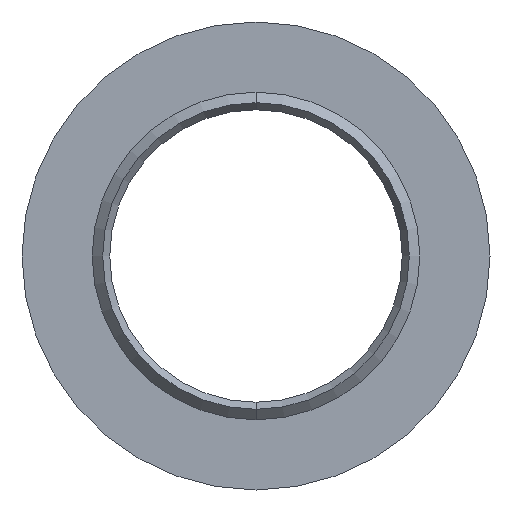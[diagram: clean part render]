
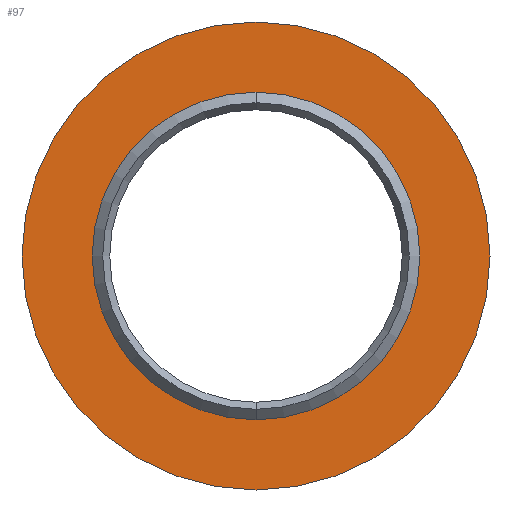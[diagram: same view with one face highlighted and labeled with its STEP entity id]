
A CAD part, front view. The second image highlights one B-rep face of the part: STEP entity #97.
In plain terms, the highlighted planar face has unit normal (0, -1, 0).
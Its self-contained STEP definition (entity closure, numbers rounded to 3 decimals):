
#5 = DIRECTION ( 'NONE',  ( 0., 0., 1. ) ) ;
#39 = DIRECTION ( 'NONE',  ( 0., 0., 1. ) ) ;
#41 = DIRECTION ( 'NONE',  ( 0., 0., 1. ) ) ;
#42 = VERTEX_POINT ( 'NONE', #106 ) ;
#56 = AXIS2_PLACEMENT_3D ( 'NONE', #147, #449, #39 ) ;
#58 = EDGE_CURVE ( 'NONE', #170, #400, #249, .T. ) ;
#75 = EDGE_LOOP ( 'NONE', ( #171, #355 ) ) ;
#97 = ADVANCED_FACE ( 'NONE', ( #125, #344 ), #223, .F. ) ;
#99 = CARTESIAN_POINT ( 'NONE',  ( 0., -3., -8. ) ) ;
#103 = DIRECTION ( 'NONE',  ( 0., 0., -1. ) ) ;
#106 = CARTESIAN_POINT ( 'NONE',  ( 0., -3., 5.6 ) ) ;
#123 = DIRECTION ( 'NONE',  ( 0., -1., 0. ) ) ;
#124 = ORIENTED_EDGE ( 'NONE', *, *, #58, .T. ) ;
#125 = FACE_BOUND ( 'NONE', #75, .T. ) ;
#142 = CIRCLE ( 'NONE', #287, 8. ) ;
#147 = CARTESIAN_POINT ( 'NONE',  ( -5.1, -3., 0. ) ) ;
#159 = CARTESIAN_POINT ( 'NONE',  ( 0., -3., 8. ) ) ;
#165 = AXIS2_PLACEMENT_3D ( 'NONE', #495, #272, #41 ) ;
#168 = CARTESIAN_POINT ( 'NONE',  ( 0., -3., -5.6 ) ) ;
#169 = EDGE_CURVE ( 'NONE', #42, #256, #308, .T. ) ;
#170 = VERTEX_POINT ( 'NONE', #159 ) ;
#171 = ORIENTED_EDGE ( 'NONE', *, *, #169, .T. ) ;
#223 = PLANE ( 'NONE',  #56 ) ;
#239 = DIRECTION ( 'NONE',  ( 0., 1., 0. ) ) ;
#242 = EDGE_CURVE ( 'NONE', #400, #170, #142, .T. ) ;
#244 = CIRCLE ( 'NONE', #343, 5.6 ) ;
#247 = ORIENTED_EDGE ( 'NONE', *, *, #242, .T. ) ;
#248 = EDGE_CURVE ( 'NONE', #256, #42, #244, .T. ) ;
#249 = CIRCLE ( 'NONE', #439, 8. ) ;
#256 = VERTEX_POINT ( 'NONE', #168 ) ;
#272 = DIRECTION ( 'NONE',  ( 0., 1., 0. ) ) ;
#287 = AXIS2_PLACEMENT_3D ( 'NONE', #358, #123, #390 ) ;
#308 = CIRCLE ( 'NONE', #165, 5.6 ) ;
#318 = EDGE_LOOP ( 'NONE', ( #247, #124 ) ) ;
#337 = DIRECTION ( 'NONE',  ( 0., -1., 0. ) ) ;
#343 = AXIS2_PLACEMENT_3D ( 'NONE', #464, #239, #5 ) ;
#344 = FACE_OUTER_BOUND ( 'NONE', #318, .T. ) ;
#355 = ORIENTED_EDGE ( 'NONE', *, *, #248, .T. ) ;
#358 = CARTESIAN_POINT ( 'NONE',  ( 0., -3., 0. ) ) ;
#375 = CARTESIAN_POINT ( 'NONE',  ( 0., -3., 0. ) ) ;
#390 = DIRECTION ( 'NONE',  ( 0., 0., -1. ) ) ;
#400 = VERTEX_POINT ( 'NONE', #99 ) ;
#439 = AXIS2_PLACEMENT_3D ( 'NONE', #375, #337, #103 ) ;
#449 = DIRECTION ( 'NONE',  ( 0., 1., 0. ) ) ;
#464 = CARTESIAN_POINT ( 'NONE',  ( 0., -3., 0. ) ) ;
#495 = CARTESIAN_POINT ( 'NONE',  ( 0., -3., 0. ) ) ;
